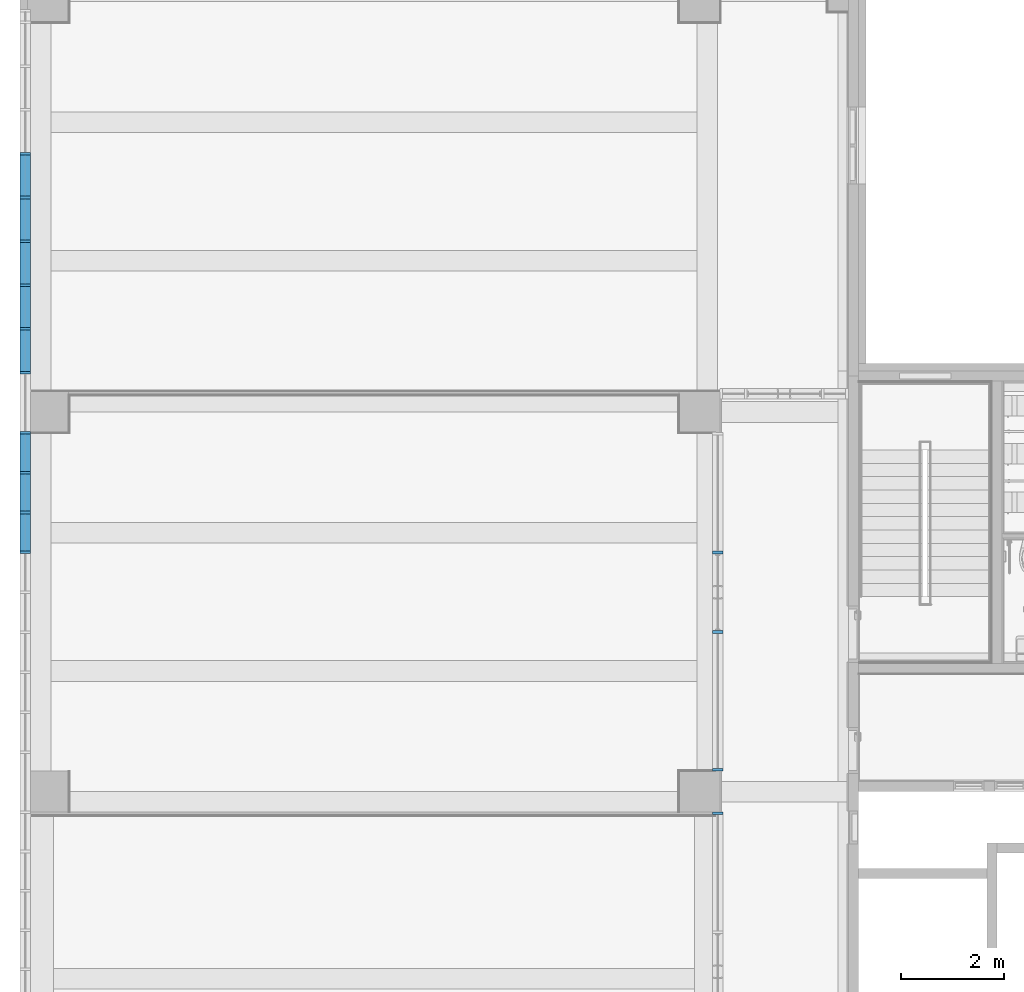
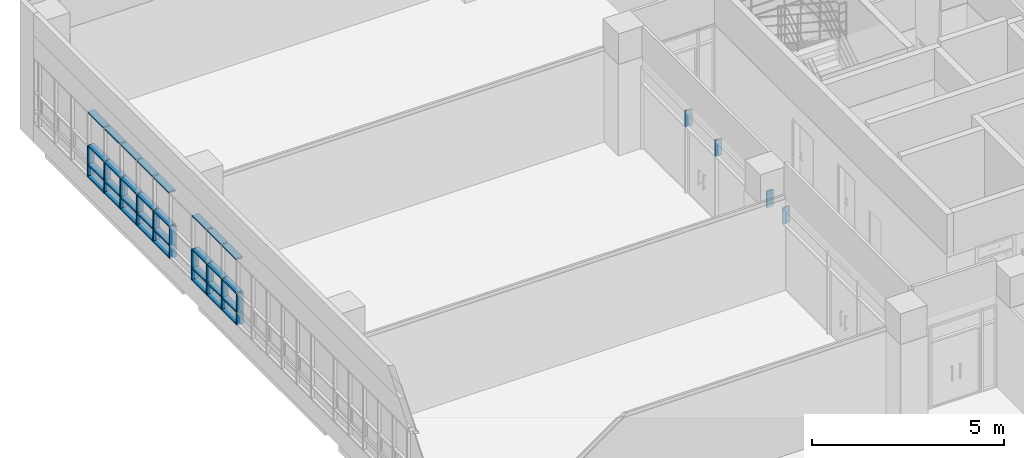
# One storey, part 17 of 81: 56 members, 3 elements without a shape of their own.
"""IFC2X3 building model written with IfcOpenShell, lengths in millimetres."""

import ifcopenshell
import ifcopenshell.guid

model = None  # the IFC model being written
_history = None  # IfcOwnerHistory: only IFC2X3 demands one
_inside = {}  # id of a spatial element -> (the spatial element, [elements in it])
_under = {}  # id of a project, library or spatial element -> (it, [spatial elements below it])
_declared = {}  # id of a project -> (the project, [libraries it declares])
_typed = {}  # id of a type object -> (the type object, [elements of that type])
_made_of = {}  # id of a material, layer set ... -> (it, [elements and type objects made of it])


def new_model(schema):
    """Start an empty IFC model of exactly this schema.

    Asked for "IFC4X3", IfcOpenShell would pick the latest addendum, in which some entities
    have other attributes; the version numbers below select the first issue.
    IFC2X3 requires an IfcOwnerHistory on every rooted entity: one is made here for all.
    """
    global model, _history
    if schema == "IFC4X3":
        model = ifcopenshell.file(schema_version=(4, 3, 0, 0))
    else:
        model = ifcopenshell.file(schema=schema)
    _inside.clear()
    _under.clear()
    _declared.clear()
    _typed.clear()
    _made_of.clear()
    _history = None
    if model.schema == "IFC2X3":
        org = make("IfcOrganization", Name="unknown")
        user = make(
            "IfcPersonAndOrganization",
            ThePerson=make("IfcPerson", FamilyName="unknown"),
            TheOrganization=org,
        )
        app = make(
            "IfcApplication",
            ApplicationDeveloper=org,
            Version="unknown",
            ApplicationFullName="unknown",
            ApplicationIdentifier="unknown",
        )
        _history = make(
            "IfcOwnerHistory",
            OwningUser=user,
            OwningApplication=app,
            ChangeAction="ADDED",
            CreationDate=0,
        )
    return model


def make(cls, **values):
    """One entity of the class cls with the attributes given. An attribute that is None is left unset."""
    return model.create_entity(
        cls, **{name: value for name, value in values.items() if value is not None}
    )


def entity(cls, *values):
    """Any entity or typed value of the class cls, its attributes in the order of the schema. None: left unset."""
    e = model.create_entity(cls)
    for i, value in enumerate(values):
        if value is not None:
            e[i] = value
    return e


def rooted(cls, **values):
    """An entity with a GlobalId (a new one), such as an element, a storey or a relation."""
    return make(cls, GlobalId=ifcopenshell.guid.new(), OwnerHistory=_history, **values)


def si_unit(unit_type, name, prefix=None):
    """IfcSIUnit, for example si_unit("LENGTHUNIT", "METRE", prefix="MILLI")."""
    return make("IfcSIUnit", UnitType=unit_type, Prefix=prefix, Name=name)


def converted_unit(unit_type, name, factor, base, dimensions=None, offset=None):
    """IfcConversionBasedUnit, such as the inch: factor (a typed value) times the base unit."""
    return make(
        "IfcConversionBasedUnit"
        if offset is None
        else "IfcConversionBasedUnitWithOffset",
        ConversionOffset=offset,
        Dimensions=None
        if dimensions is None
        else entity("IfcDimensionalExponents", *dimensions),
        UnitType=unit_type,
        Name=name,
        ConversionFactor=make(
            "IfcMeasureWithUnit", ValueComponent=factor, UnitComponent=base
        ),
    )


def derived_unit(unit_type, elements):
    """IfcDerivedUnit: a product of units, each with its exponent."""
    return make(
        "IfcDerivedUnit",
        Elements=[
            make("IfcDerivedUnitElement", Unit=unit, Exponent=power)
            for unit, power in elements
        ],
        UnitType=unit_type,
    )


def assignment(units):
    """IfcUnitAssignment: the units of a project."""
    return None if units is None else make("IfcUnitAssignment", Units=units)


def point(xyz):
    """IfcCartesianPoint."""
    return None if xyz is None else make("IfcCartesianPoint", Coordinates=xyz)


def direction(xyz):
    """IfcDirection."""
    return None if xyz is None else make("IfcDirection", DirectionRatios=xyz)


def frame(location, z_axis=None, x_axis=None):
    """IfcAxis2Placement3D, a coordinate frame: its origin and axes. An axis left out is left unset."""
    return make(
        "IfcAxis2Placement3D",
        Location=point(location),
        Axis=direction(z_axis),
        RefDirection=direction(x_axis),
    )


def frame_2d(location, x_axis=None):
    """IfcAxis2Placement2D, a coordinate frame in the plane: its origin and x axis."""
    return make(
        "IfcAxis2Placement2D", Location=point(location), RefDirection=direction(x_axis)
    )


def origin():
    """The frame at (0, 0, 0) with its axes left unset."""
    return frame((0.0, 0.0, 0.0))


def origin_2d_with_axis():
    """The frame at (0, 0) in the plane with the x axis (1, 0) written out."""
    return frame_2d((0.0, 0.0), x_axis=(1.0, 0.0))


def place(relative_to, where):
    """IfcLocalPlacement: puts the frame where relative to a parent placement (None: the world)."""
    return make(
        "IfcLocalPlacement", PlacementRelTo=relative_to, RelativePlacement=where
    )


def context(
    kind, dimensions, precision=None, world=None, true_north=None, identifier=None
):
    """IfcGeometricRepresentationContext, for example the 3D "Model" context."""
    return make(
        "IfcGeometricRepresentationContext",
        ContextIdentifier=identifier,
        ContextType=kind,
        CoordinateSpaceDimension=dimensions,
        Precision=precision,
        WorldCoordinateSystem=world,
        TrueNorth=true_north,
    )


def subcontext(parent, identifier, kind, view, scale=None):
    """IfcGeometricRepresentationSubContext, for example "Body" below "Model"."""
    return make(
        "IfcGeometricRepresentationSubContext",
        ContextIdentifier=identifier,
        ContextType=kind,
        ParentContext=parent,
        TargetScale=scale,
        TargetView=view,
    )


def project(units=None, contexts=None):
    """IfcProject with its units and contexts."""
    return rooted(
        "IfcProject",
        Name="project",
        RepresentationContexts=contexts,
        UnitsInContext=assignment(units),
    )


def spatial(cls, under=None, at=None, **own):
    """A site, building, storey or space (cls), placed at a placement, below another one or the project."""
    s = rooted(cls, ObjectPlacement=at, **own)
    if under is not None:
        _under.setdefault(under.id(), (under, []))[1].append(s)
    return s


def profile(cls, at=None, kind="AREA", **sizes):
    """A parametric profile (cls). Its sizes go by their IFC names, for example OverallWidth=200.0."""
    return make(cls, ProfileType=kind, Position=at, **sizes)


def rectangle(**sizes):
    """IfcRectangleProfileDef."""
    return profile("IfcRectangleProfileDef", **sizes)


def extrude(swept, where, along, depth):
    """IfcExtrudedAreaSolid: the profile swept, set in the frame where, extruded along a direction by depth."""
    return make(
        "IfcExtrudedAreaSolid",
        SweptArea=swept,
        Position=where,
        ExtrudedDirection=direction(along),
        Depth=depth,
    )


def shape(context_of_items, identifier, shape_type, items):
    """IfcShapeRepresentation: the items that make up one representation, for example the "Body"."""
    return make(
        "IfcShapeRepresentation",
        ContextOfItems=context_of_items,
        RepresentationIdentifier=identifier,
        RepresentationType=shape_type,
        Items=items,
    )


def source(mapping_origin, context_of_items, identifier, shape_type, items):
    """IfcRepresentationMap: a shape defined once, which mapped items show again and again."""
    return make(
        "IfcRepresentationMap",
        MappingOrigin=mapping_origin,
        MappedRepresentation=shape(context_of_items, identifier, shape_type, items),
    )


def transform(
    local_origin,
    x_axis=None,
    y_axis=None,
    z_axis=None,
    scale=None,
    scale2=None,
    scale3=None,
    uniform=True,
):
    """IfcCartesianTransformationOperator3D, or its non-uniform kind. x_axis, y_axis, z_axis: its Axis1, 2, 3."""
    if uniform:
        return make(
            "IfcCartesianTransformationOperator3D",
            Axis1=direction(x_axis),
            Axis2=direction(y_axis),
            LocalOrigin=point(local_origin),
            Scale=scale,
            Axis3=direction(z_axis),
        )
    return make(
        "IfcCartesianTransformationOperator3DnonUniform",
        Axis1=direction(x_axis),
        Axis2=direction(y_axis),
        LocalOrigin=point(local_origin),
        Scale=scale,
        Axis3=direction(z_axis),
        Scale2=scale2,
        Scale3=scale3,
    )


def mapped(mapping_source, mapping_target):
    """IfcMappedItem: shows the shape of a source again, moved by a transform."""
    return make(
        "IfcMappedItem", MappingSource=mapping_source, MappingTarget=mapping_target
    )


def material(Name=None, Category=None):
    """IfcMaterial."""
    return make("IfcMaterial", Name=Name, Category=Category)


def made_of(thing, what):
    """Note that an element or type object is made of a material, layer set ...; save() writes the relation."""
    if what is not None:
        _made_of.setdefault(what.id(), (what, []))[1].append(thing)
    return thing


def type_object(cls, material=None, **own):
    """A type object (cls), such as IfcWallType, which elements share."""
    return made_of(rooted(cls, **own), material)


def type_shapes(of_type, sources):
    """Give a type object the sources (RepresentationMaps) that its elements show as mapped items."""
    of_type.RepresentationMaps = sources


def element(
    cls,
    number,
    at=None,
    inside=None,
    cuts=None,
    type_object=None,
    material=None,
    context=None,
    identifier="Body",
    shape_type=None,
    held_by="IfcProductDefinitionShape",
    body=None,
    shapes=None,
    **own,
):
    """One element of the class cls, such as IfcWall. Its Tag is "e" and its number.

    at: its placement. inside: the storey or other place that contains it. cuts: it is an
    opening in that element (IfcRelVoidsElement). A single representation is given by context,
    identifier, shape_type and body (its items); several are given by shapes. held_by: the class
    of the entity that holds the representations. save() writes the other relations.
    """
    e = rooted(cls, Tag="e%d" % number, ObjectPlacement=at, **own)
    if body is not None:
        shapes = [shape(context, identifier, shape_type, body)]
    if shapes is not None:
        e.Representation = make(held_by, Representations=shapes)
    if inside is not None:
        _inside.setdefault(inside.id(), (inside, []))[1].append(e)
    if cuts is not None:
        rooted(
            "IfcRelVoidsElement", RelatingBuildingElement=cuts, RelatedOpeningElement=e
        )
    if type_object is not None:
        _typed.setdefault(type_object.id(), (type_object, []))[1].append(e)
    return made_of(e, material)


def aggregate(whole, parts):
    """IfcRelAggregates: a whole, such as a stair, and the parts it consists of."""
    return rooted("IfcRelAggregates", RelatingObject=whole, RelatedObjects=parts)


def save(model, path):
    """Write the relations noted so far, then the file.

    IfcRelAggregates (storeys below a building ...), IfcRelContainedInSpatialStructure (elements
    in a storey), IfcRelDefinesByType, IfcRelAssociatesMaterial and IfcRelDeclares: one each for
    every whole, place, type object, material and project.
    """
    for whole, parts in _under.values():
        aggregate(whole, parts)
    for where, things in _inside.values():
        rooted(
            "IfcRelContainedInSpatialStructure",
            RelatedElements=things,
            RelatingStructure=where,
        )
    for kind, things in _typed.values():
        rooted("IfcRelDefinesByType", RelatedObjects=things, RelatingType=kind)
    for what, things in _made_of.values():
        rooted("IfcRelAssociatesMaterial", RelatedObjects=things, RelatingMaterial=what)
    for by, libraries in _declared.values():
        rooted("IfcRelDeclares", RelatingContext=by, RelatedDefinitions=libraries)
    model.write(path)


model = new_model("IFC2X3")

# Units and contexts
model_context = context("Model", 3, precision=0.01, world=origin(), true_north=direction((6.123031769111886e-17, 1.0)))
body_context = subcontext(model_context, "Body", "Model", "MODEL_VIEW")
ifc_project = project(units=[si_unit("LENGTHUNIT", "METRE", prefix="MILLI"), si_unit("AREAUNIT", "SQUARE_METRE"), si_unit("VOLUMEUNIT", "CUBIC_METRE"), converted_unit("PLANEANGLEUNIT", "DEGREE", entity("IfcRatioMeasure", 0.017453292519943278), si_unit("PLANEANGLEUNIT", "RADIAN"), dimensions=[0, 0, 0, 0, 0, 0, 0]), si_unit("MASSUNIT", "GRAM", prefix="KILO"), derived_unit("MASSDENSITYUNIT", [(si_unit("MASSUNIT", "GRAM", prefix="KILO"), 1), (si_unit("LENGTHUNIT", "METRE"), -3)]), derived_unit("MOMENTOFINERTIAUNIT", [(si_unit("LENGTHUNIT", "METRE"), 4)]), si_unit("TIMEUNIT", "SECOND"), si_unit("FREQUENCYUNIT", "HERTZ"), si_unit("THERMODYNAMICTEMPERATUREUNIT", "DEGREE_CELSIUS"), derived_unit("THERMALTRANSMITTANCEUNIT", [(si_unit("MASSUNIT", "GRAM", prefix="KILO"), 1), (si_unit("THERMODYNAMICTEMPERATUREUNIT", "KELVIN"), -1), (si_unit("TIMEUNIT", "SECOND"), -3)]), derived_unit("VOLUMETRICFLOWRATEUNIT", [(si_unit("LENGTHUNIT", "METRE"), 3), (si_unit("TIMEUNIT", "SECOND"), -1)]), derived_unit("MASSFLOWRATEUNIT", [(si_unit("MASSUNIT", "GRAM", prefix="KILO"), 1), (si_unit("TIMEUNIT", "SECOND"), -1)]), derived_unit("ROTATIONALFREQUENCYUNIT", [(si_unit("TIMEUNIT", "SECOND"), -1)]), si_unit("ELECTRICCURRENTUNIT", "AMPERE"), si_unit("ELECTRICVOLTAGEUNIT", "VOLT"), si_unit("POWERUNIT", "WATT"), si_unit("FORCEUNIT", "NEWTON", prefix="KILO"), si_unit("ILLUMINANCEUNIT", "LUX"), si_unit("LUMINOUSFLUXUNIT", "LUMEN"), si_unit("LUMINOUSINTENSITYUNIT", "CANDELA"), derived_unit("USERDEFINED", [(si_unit("MASSUNIT", "GRAM", prefix="KILO"), -1), (si_unit("LENGTHUNIT", "METRE"), -2), (si_unit("TIMEUNIT", "SECOND"), 3), (si_unit("LUMINOUSFLUXUNIT", "LUMEN"), 1)]), derived_unit("SOUNDPOWERUNIT", [(si_unit("MASSUNIT", "GRAM", prefix="KILO"), 1), (si_unit("LENGTHUNIT", "METRE"), 2), (si_unit("TIMEUNIT", "SECOND"), -3)]), derived_unit("SOUNDPRESSUREUNIT", [(si_unit("MASSUNIT", "GRAM", prefix="KILO"), 1), (si_unit("LENGTHUNIT", "METRE"), -1), (si_unit("TIMEUNIT", "SECOND"), -2)]), derived_unit("LINEARVELOCITYUNIT", [(si_unit("LENGTHUNIT", "METRE"), 1), (si_unit("TIMEUNIT", "SECOND"), -1)]), si_unit("PRESSUREUNIT", "PASCAL"), derived_unit("USERDEFINED", [(si_unit("LENGTHUNIT", "METRE"), -2), (si_unit("MASSUNIT", "GRAM", prefix="KILO"), 1), (si_unit("TIMEUNIT", "SECOND"), -2)]), derived_unit("LINEARFORCEUNIT", [(si_unit("MASSUNIT", "GRAM", prefix="KILO"), 1), (si_unit("LENGTHUNIT", "METRE"), 1), (si_unit("TIMEUNIT", "SECOND"), -2), (si_unit("LENGTHUNIT", "METRE"), -1)]), derived_unit("PLANARFORCEUNIT", [(si_unit("MASSUNIT", "GRAM", prefix="KILO"), 1), (si_unit("LENGTHUNIT", "METRE"), 1), (si_unit("TIMEUNIT", "SECOND"), -2), (si_unit("LENGTHUNIT", "METRE"), -2)])], contexts=[model_context])

# Site, building, storey
site_placement = place(None, frame((-14167.972527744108, -657.2125860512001, 0.0)))
site = spatial("IfcSite", under=ifc_project, at=site_placement, Name="Default", CompositionType="ELEMENT")
building_placement = place(site_placement, origin())
building = spatial("IfcBuilding", under=site, at=building_placement, Name="Sample Building", CompositionType="ELEMENT")
storey_placement = place(building_placement, frame((0.0, 0.0, 13400.0)))
storey = spatial("IfcBuildingStorey", under=building, at=storey_placement, Name="지상 4층", CompositionType="ELEMENT", Elevation=13400.00000000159)

# Curtain wall, members
curtain_wall_type = type_object("IfcCurtainWallType", Name="커튼월:CW112-스테인리스 스틸 커튼월", PredefinedType="NOTDEFINED")
curtain_wall_1_placement = place(storey_placement, frame((0.0, 0.0, -13400.0)))
curtain_wall_1 = element("IfcCurtainWall", 1, at=curtain_wall_1_placement, inside=storey, type_object=curtain_wall_type, Name="커튼월:CW112-스테인리스 스틸 커튼월", ObjectType="커튼월:CW112-스테인리스 스틸 커튼월")
ifc_material = material(Name="<Unnamed>")
member_type_1 = type_object("IfcMemberType", Name="직사각형 멀리언:CW200-직사각형 멀리언 50x200mm", PredefinedType="MULLION", material=ifc_material)
shared_shape_1 = source(origin(), body_context, "Body", "SweptSolid", [
    extrude(rectangle(XDim=200.0, YDim=50.0, at=origin_2d_with_axis()), frame((0.0, 0.0, -600.0), z_axis=(0.0, 0.0, 1.0), x_axis=(0.0, -1.0, 0.0)), (0.0, 0.0, 1.0), 600.0),
])
type_shapes(member_type_1, [shared_shape_1])
member_1_placement = place(curtain_wall_1_placement, frame((14018.570555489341, 32393.317707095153, 14400.0), z_axis=(0.0, 0.0, -1.0), x_axis=(0.0, -1.0, 0.0)))
member_1 = element("IfcMember", 2, at=member_1_placement, type_object=member_type_1, material=ifc_material, Name="직사각형 멀리언:CW200-직사각형 멀리언 50x200mm", ObjectType="직사각형 멀리언:CW200-직사각형 멀리언 50x200mm", context=body_context, shape_type="MappedRepresentation", body=[
    mapped(shared_shape_1, transform((0.0, 0.0, 0.0), scale=1.0)),
])
member_2_placement = place(curtain_wall_1_placement, frame((14018.570555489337, 31539.817707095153, 14400.0), z_axis=(0.0, 0.0, -1.0), x_axis=(0.0, -1.0, 0.0)))
member_2 = element("IfcMember", 3, at=member_2_placement, type_object=member_type_1, material=ifc_material, Name="직사각형 멀리언:CW200-직사각형 멀리언 50x200mm", ObjectType="직사각형 멀리언:CW200-직사각형 멀리언 50x200mm", context=body_context, shape_type="MappedRepresentation", body=[
    mapped(shared_shape_1, transform((0.0, 0.0, 0.0), scale=1.0)),
])
member_3_placement = place(curtain_wall_1_placement, frame((14018.570555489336, 30686.317707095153, 14400.0), z_axis=(0.0, 0.0, -1.0), x_axis=(0.0, -1.0, 0.0)))
member_3 = element("IfcMember", 4, at=member_3_placement, type_object=member_type_1, material=ifc_material, Name="직사각형 멀리언:CW200-직사각형 멀리언 50x200mm", ObjectType="직사각형 멀리언:CW200-직사각형 멀리언 50x200mm", context=body_context, shape_type="MappedRepresentation", body=[
    mapped(shared_shape_1, transform((0.0, 0.0, 0.0), scale=1.0)),
])
member_4_placement = place(curtain_wall_1_placement, frame((14018.570555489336, 29832.81770709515, 14400.0), z_axis=(0.0, 0.0, -1.0), x_axis=(0.0, -1.0, 0.0)))
member_4 = element("IfcMember", 5, at=member_4_placement, type_object=member_type_1, material=ifc_material, Name="직사각형 멀리언:CW200-직사각형 멀리언 50x200mm", ObjectType="직사각형 멀리언:CW200-직사각형 멀리언 50x200mm", context=body_context, shape_type="MappedRepresentation", body=[
    mapped(shared_shape_1, transform((0.0, 0.0, 0.0), scale=1.0)),
])
member_5_placement = place(curtain_wall_1_placement, frame((14018.570555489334, 28979.31770709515, 14400.0), z_axis=(0.0, 0.0, -1.0), x_axis=(0.0, -1.0, 0.0)))
member_5 = element("IfcMember", 6, at=member_5_placement, type_object=member_type_1, material=ifc_material, Name="직사각형 멀리언:CW200-직사각형 멀리언 50x200mm", ObjectType="직사각형 멀리언:CW200-직사각형 멀리언 50x200mm", context=body_context, shape_type="MappedRepresentation", body=[
    mapped(shared_shape_1, transform((0.0, 0.0, 0.0), scale=1.0)),
])
member_6_placement = place(curtain_wall_1_placement, frame((14018.570555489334, 28125.81770709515, 14400.0), z_axis=(0.0, 0.0, -1.0), x_axis=(0.0, -1.0, 0.0)))
member_6 = element("IfcMember", 7, at=member_6_placement, type_object=member_type_1, material=ifc_material, Name="직사각형 멀리언:CW200-직사각형 멀리언 50x200mm", ObjectType="직사각형 멀리언:CW200-직사각형 멀리언 50x200mm", context=body_context, shape_type="MappedRepresentation", body=[
    mapped(shared_shape_1, transform((0.0, 0.0, 0.0), scale=1.0)),
])
member_7_placement = place(curtain_wall_1_placement, frame((14018.570555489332, 26955.81770709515, 14400.0), z_axis=(0.0, 0.0, -1.0), x_axis=(0.0, -1.0, 0.0)))
member_7 = element("IfcMember", 8, at=member_7_placement, type_object=member_type_1, material=ifc_material, Name="직사각형 멀리언:CW200-직사각형 멀리언 50x200mm", ObjectType="직사각형 멀리언:CW200-직사각형 멀리언 50x200mm", context=body_context, shape_type="MappedRepresentation", body=[
    mapped(shared_shape_1, transform((0.0, 0.0, 0.0), scale=1.0)),
])
member_8_placement = place(curtain_wall_1_placement, frame((14018.57055548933, 26176.81770709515, 14400.0), z_axis=(0.0, 0.0, -1.0), x_axis=(0.0, -1.0, 0.0)))
member_8 = element("IfcMember", 9, at=member_8_placement, type_object=member_type_1, material=ifc_material, Name="직사각형 멀리언:CW200-직사각형 멀리언 50x200mm", ObjectType="직사각형 멀리언:CW200-직사각형 멀리언 50x200mm", context=body_context, shape_type="MappedRepresentation", body=[
    mapped(shared_shape_1, transform((0.0, 0.0, 0.0), scale=1.0)),
])
member_9_placement = place(curtain_wall_1_placement, frame((14018.57055548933, 25397.81770709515, 14400.0), z_axis=(0.0, 0.0, -1.0), x_axis=(0.0, -1.0, 0.0)))
member_9 = element("IfcMember", 10, at=member_9_placement, type_object=member_type_1, material=ifc_material, Name="직사각형 멀리언:CW200-직사각형 멀리언 50x200mm", ObjectType="직사각형 멀리언:CW200-직사각형 멀리언 50x200mm", context=body_context, shape_type="MappedRepresentation", body=[
    mapped(shared_shape_1, transform((0.0, 0.0, 0.0), scale=1.0)),
])
member_10_placement = place(curtain_wall_1_placement, frame((14018.570555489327, 24618.81770709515, 14400.0), z_axis=(0.0, 0.0, -1.0), x_axis=(0.0, -1.0, 0.0)))
member_10 = element("IfcMember", 11, at=member_10_placement, type_object=member_type_1, material=ifc_material, Name="직사각형 멀리언:CW200-직사각형 멀리언 50x200mm", ObjectType="직사각형 멀리언:CW200-직사각형 멀리언 50x200mm", context=body_context, shape_type="MappedRepresentation", body=[
    mapped(shared_shape_1, transform((0.0, 0.0, 0.0), scale=1.0)),
])

# Curtain wall, member
curtain_wall_2_placement = place(storey_placement, frame((0.0, 0.0, -13400.0)))
curtain_wall_2 = element("IfcCurtainWall", 12, at=curtain_wall_2_placement, inside=storey, type_object=curtain_wall_type, Name="커튼월:CW112-스테인리스 스틸 커튼월", ObjectType="커튼월:CW112-스테인리스 스틸 커튼월")
member_type_2 = type_object("IfcMemberType", Name="직사각형 멀리언:CW200-직사각형 멀리언 50x200mm", PredefinedType="MULLION", material=ifc_material)
shared_shape_2 = source(origin(), body_context, "Body", "SweptSolid", [
    extrude(rectangle(XDim=200.0, YDim=50.0, at=origin_2d_with_axis()), frame((-25.0, 0.0, -520.0), z_axis=(0.0, 0.0, 1.0), x_axis=(0.0, -1.0, 0.0)), (0.0, 0.0, 1.0), 520.0000000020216),
])
type_shapes(member_type_2, [shared_shape_2])
member_11_placement = place(curtain_wall_2_placement, frame((27522.95510516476, 19557.212617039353, 16100.0), z_axis=(0.0, 0.0, 1.0), x_axis=(0.0, 1.0, 0.0)))
member_11 = element("IfcMember", 13, at=member_11_placement, type_object=member_type_2, material=ifc_material, Name="직사각형 멀리언:CW200-직사각형 멀리언 50x200mm", ObjectType="직사각형 멀리언:CW200-직사각형 멀리언 50x200mm", context=body_context, shape_type="MappedRepresentation", body=[
    mapped(shared_shape_2, transform((0.0, 0.0, 0.0), scale=1.0)),
])
aggregate(curtain_wall_2, [member_11])

# Curtain wall, members
curtain_wall_3_placement = place(storey_placement, frame((0.0, 0.0, -13400.0)))
curtain_wall_3 = element("IfcCurtainWall", 14, at=curtain_wall_3_placement, inside=storey, type_object=curtain_wall_type, Name="커튼월:CW112-스테인리스 스틸 커튼월", ObjectType="커튼월:CW112-스테인리스 스틸 커튼월")
member_type_3 = type_object("IfcMemberType", Name="직사각형 멀리언:CW200-직사각형 멀리언 50x200mm", PredefinedType="MULLION", material=ifc_material)
shared_shape_3 = source(origin(), body_context, "Body", "SweptSolid", [
    extrude(rectangle(XDim=200.0, YDim=50.0, at=origin_2d_with_axis()), frame((-25.0, 0.0, -520.0), z_axis=(0.0, 0.0, 1.0), x_axis=(0.0, -1.0, 0.0)), (0.0, 0.0, 1.0), 520.0000000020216),
])
type_shapes(member_type_3, [shared_shape_3])
member_12_placement = place(curtain_wall_3_placement, frame((27523.08697283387, 20357.212307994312, 15580.0), z_axis=(0.0, 0.0, -1.0), x_axis=(0.0, -1.0, 0.0)))
member_12 = element("IfcMember", 15, at=member_12_placement, type_object=member_type_3, material=ifc_material, Name="직사각형 멀리언:CW200-직사각형 멀리언 50x200mm", ObjectType="직사각형 멀리언:CW200-직사각형 멀리언 50x200mm", context=body_context, shape_type="MappedRepresentation", body=[
    mapped(shared_shape_3, transform((0.0, 0.0, 0.0), scale=1.0)),
])
member_type_4 = type_object("IfcMemberType", Name="직사각형 멀리언:CW200-직사각형 멀리언 50x200mm", PredefinedType="MULLION", material=ifc_material)
shared_shape_4 = source(origin(), body_context, "Body", "SweptSolid", [
    extrude(rectangle(XDim=200.0, YDim=50.0, at=origin_2d_with_axis()), frame((0.0, 0.0, -520.0), z_axis=(0.0, 0.0, 1.0), x_axis=(0.0, -1.0, 0.0)), (0.0, 0.0, 1.0), 520.0000000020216),
])
type_shapes(member_type_4, [shared_shape_4])
member_13_placement = place(curtain_wall_3_placement, frame((27523.086972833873, 24617.21230799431, 15580.0), z_axis=(0.0, 0.0, -1.0), x_axis=(0.0, -1.0, 0.0)))
member_13 = element("IfcMember", 16, at=member_13_placement, type_object=member_type_4, material=ifc_material, Name="직사각형 멀리언:CW200-직사각형 멀리언 50x200mm", ObjectType="직사각형 멀리언:CW200-직사각형 멀리언 50x200mm", context=body_context, shape_type="MappedRepresentation", body=[
    mapped(shared_shape_4, transform((0.0, 0.0, 0.0), scale=1.0)),
])
member_14_placement = place(curtain_wall_3_placement, frame((27523.086972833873, 23067.212307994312, 15580.0), z_axis=(0.0, 0.0, -1.0), x_axis=(0.0, -1.0, 0.0)))
member_14 = element("IfcMember", 17, at=member_14_placement, type_object=member_type_4, material=ifc_material, Name="직사각형 멀리언:CW200-직사각형 멀리언 50x200mm", ObjectType="직사각형 멀리언:CW200-직사각형 멀리언 50x200mm", context=body_context, shape_type="MappedRepresentation", body=[
    mapped(shared_shape_4, transform((0.0, 0.0, 0.0), scale=1.0)),
])
aggregate(curtain_wall_3, [member_12, member_13, member_14])

# Member
member_type_5 = type_object("IfcMemberType", Name="직사각형 멀리언:CW200-직사각형 멀리언 50x200mm", PredefinedType="MULLION", material=ifc_material)
shared_shape_5 = source(origin(), body_context, "Body", "SweptSolid", [
    extrude(rectangle(XDim=200.0, YDim=50.0, at=origin_2d_with_axis()), frame((-25.0, 0.0, -729.0), z_axis=(0.0, 0.0, 1.0), x_axis=(0.0, -1.0, 0.0)), (0.0, 0.0, 1.0), 729.000000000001),
])
type_shapes(member_type_5, [shared_shape_5])
member_15_placement = place(curtain_wall_1_placement, frame((14018.570555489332, 26930.817707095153, 14000.0), z_axis=(0.0, 1.0, 0.0), x_axis=(0.0, 0.0, -1.0)))
member_15 = element("IfcMember", 18, at=member_15_placement, type_object=member_type_5, material=ifc_material, Name="직사각형 멀리언:CW200-직사각형 멀리언 50x200mm", ObjectType="직사각형 멀리언:CW200-직사각형 멀리언 50x200mm", context=body_context, shape_type="MappedRepresentation", body=[
    mapped(shared_shape_5, transform((0.0, 0.0, 0.0), scale=1.0)),
])

member_16_placement = place(curtain_wall_1_placement, frame((14018.57055548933, 26151.817707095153, 14000.0), z_axis=(0.0, 1.0, 0.0), x_axis=(0.0, 0.0, -1.0)))
member_16 = element("IfcMember", 19, at=member_16_placement, type_object=member_type_5, material=ifc_material, Name="직사각형 멀리언:CW200-직사각형 멀리언 50x200mm", ObjectType="직사각형 멀리언:CW200-직사각형 멀리언 50x200mm", context=body_context, shape_type="MappedRepresentation", body=[
    mapped(shared_shape_5, transform((0.0, 0.0, 0.0), scale=1.0)),
])

member_17_placement = place(curtain_wall_1_placement, frame((14018.57055548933, 25372.817707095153, 14000.0), z_axis=(0.0, 1.0, 0.0), x_axis=(0.0, 0.0, -1.0)))
member_17 = element("IfcMember", 20, at=member_17_placement, type_object=member_type_5, material=ifc_material, Name="직사각형 멀리언:CW200-직사각형 멀리언 50x200mm", ObjectType="직사각형 멀리언:CW200-직사각형 멀리언 50x200mm", context=body_context, shape_type="MappedRepresentation", body=[
    mapped(shared_shape_5, transform((0.0, 0.0, 0.0), scale=1.0)),
])

member_type_6 = type_object("IfcMemberType", Name="직사각형 멀리언:CW200-직사각형 멀리언 50x200mm", PredefinedType="MULLION", material=ifc_material)
shared_shape_6 = source(origin(), body_context, "Body", "SweptSolid", [
    extrude(rectangle(XDim=200.0, YDim=50.0, at=origin_2d_with_axis()), frame((0.0, 0.0, -729.0), z_axis=(0.0, 0.0, 1.0), x_axis=(0.0, -1.0, 0.0)), (0.0, 0.0, 1.0), 728.9999999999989),
])
type_shapes(member_type_6, [shared_shape_6])
member_18_placement = place(curtain_wall_1_placement, frame((14018.57055548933, 26201.81770709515, 14400.0), z_axis=(0.0, -1.0, 0.0), x_axis=(0.0, 0.0, 1.0)))
member_18 = element("IfcMember", 21, at=member_18_placement, type_object=member_type_6, material=ifc_material, Name="직사각형 멀리언:CW200-직사각형 멀리언 50x200mm", ObjectType="직사각형 멀리언:CW200-직사각형 멀리언 50x200mm", context=body_context, shape_type="MappedRepresentation", body=[
    mapped(shared_shape_6, transform((0.0, 0.0, 0.0), scale=1.0)),
])

member_19_placement = place(curtain_wall_1_placement, frame((14018.57055548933, 26201.81770709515, 15000.0), z_axis=(0.0, -1.0, 0.0), x_axis=(0.0, 0.0, 1.0)))
member_19 = element("IfcMember", 22, at=member_19_placement, type_object=member_type_6, material=ifc_material, Name="직사각형 멀리언:CW200-직사각형 멀리언 50x200mm", ObjectType="직사각형 멀리언:CW200-직사각형 멀리언 50x200mm", context=body_context, shape_type="MappedRepresentation", body=[
    mapped(shared_shape_6, transform((0.0, 0.0, 0.0), scale=1.0)),
])

member_20_placement = place(curtain_wall_1_placement, frame((14018.57055548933, 25422.81770709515, 14400.0), z_axis=(0.0, -1.0, 0.0), x_axis=(0.0, 0.0, 1.0)))
member_20 = element("IfcMember", 23, at=member_20_placement, type_object=member_type_6, material=ifc_material, Name="직사각형 멀리언:CW200-직사각형 멀리언 50x200mm", ObjectType="직사각형 멀리언:CW200-직사각형 멀리언 50x200mm", context=body_context, shape_type="MappedRepresentation", body=[
    mapped(shared_shape_6, transform((0.0, 0.0, 0.0), scale=1.0)),
])

member_21_placement = place(curtain_wall_1_placement, frame((14018.57055548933, 25422.81770709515, 15000.0), z_axis=(0.0, -1.0, 0.0), x_axis=(0.0, 0.0, 1.0)))
member_21 = element("IfcMember", 24, at=member_21_placement, type_object=member_type_6, material=ifc_material, Name="직사각형 멀리언:CW200-직사각형 멀리언 50x200mm", ObjectType="직사각형 멀리언:CW200-직사각형 멀리언 50x200mm", context=body_context, shape_type="MappedRepresentation", body=[
    mapped(shared_shape_6, transform((0.0, 0.0, 0.0), scale=1.0)),
])

member_22_placement = place(curtain_wall_1_placement, frame((14018.570555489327, 24643.81770709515, 14400.0), z_axis=(0.0, -1.0, 0.0), x_axis=(0.0, 0.0, 1.0)))
member_22 = element("IfcMember", 25, at=member_22_placement, type_object=member_type_6, material=ifc_material, Name="직사각형 멀리언:CW200-직사각형 멀리언 50x200mm", ObjectType="직사각형 멀리언:CW200-직사각형 멀리언 50x200mm", context=body_context, shape_type="MappedRepresentation", body=[
    mapped(shared_shape_6, transform((0.0, 0.0, 0.0), scale=1.0)),
])

member_23_placement = place(curtain_wall_1_placement, frame((14018.570555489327, 24643.81770709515, 15000.0), z_axis=(0.0, -1.0, 0.0), x_axis=(0.0, 0.0, 1.0)))
member_23 = element("IfcMember", 26, at=member_23_placement, type_object=member_type_6, material=ifc_material, Name="직사각형 멀리언:CW200-직사각형 멀리언 50x200mm", ObjectType="직사각형 멀리언:CW200-직사각형 멀리언 50x200mm", context=body_context, shape_type="MappedRepresentation", body=[
    mapped(shared_shape_6, transform((0.0, 0.0, 0.0), scale=1.0)),
])

member_type_7 = type_object("IfcMemberType", Name="직사각형 멀리언:CW200-직사각형 멀리언 50x200mm", PredefinedType="MULLION", material=ifc_material)
shared_shape_7 = source(origin(), body_context, "Body", "SweptSolid", [
    extrude(rectangle(XDim=200.0, YDim=50.0, at=origin_2d_with_axis()), frame((-25.0, 0.0, -729.0), z_axis=(0.0, 0.0, 1.0), x_axis=(0.0, -1.0, 0.0)), (0.0, 0.0, 1.0), 728.9999999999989),
])
type_shapes(member_type_7, [shared_shape_7])
member_24_placement = place(curtain_wall_1_placement, frame((14018.57055548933, 26201.81770709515, 16100.0), z_axis=(0.0, -1.0, 0.0), x_axis=(0.0, 0.0, 1.0)))
member_24 = element("IfcMember", 27, at=member_24_placement, type_object=member_type_7, material=ifc_material, Name="직사각형 멀리언:CW200-직사각형 멀리언 50x200mm", ObjectType="직사각형 멀리언:CW200-직사각형 멀리언 50x200mm", context=body_context, shape_type="MappedRepresentation", body=[
    mapped(shared_shape_7, transform((0.0, 0.0, 0.0), scale=1.0)),
])

member_25_placement = place(curtain_wall_1_placement, frame((14018.57055548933, 25422.81770709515, 16100.0), z_axis=(0.0, -1.0, 0.0), x_axis=(0.0, 0.0, 1.0)))
member_25 = element("IfcMember", 28, at=member_25_placement, type_object=member_type_7, material=ifc_material, Name="직사각형 멀리언:CW200-직사각형 멀리언 50x200mm", ObjectType="직사각형 멀리언:CW200-직사각형 멀리언 50x200mm", context=body_context, shape_type="MappedRepresentation", body=[
    mapped(shared_shape_7, transform((0.0, 0.0, 0.0), scale=1.0)),
])

member_26_placement = place(curtain_wall_1_placement, frame((14018.570555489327, 24643.817707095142, 16100.0), z_axis=(0.0, -1.0, 0.0), x_axis=(0.0, 0.0, 1.0)))
member_26 = element("IfcMember", 29, at=member_26_placement, type_object=member_type_7, material=ifc_material, Name="직사각형 멀리언:CW200-직사각형 멀리언 50x200mm", ObjectType="직사각형 멀리언:CW200-직사각형 멀리언 50x200mm", context=body_context, shape_type="MappedRepresentation", body=[
    mapped(shared_shape_7, transform((0.0, 0.0, 0.0), scale=1.0)),
])

member_type_8 = type_object("IfcMemberType", Name="직사각형 멀리언:CW200-직사각형 멀리언 50x200mm", PredefinedType="MULLION", material=ifc_material)
shared_shape_8 = source(origin(), body_context, "Body", "SweptSolid", [
    extrude(rectangle(XDim=200.0, YDim=50.0, at=origin_2d_with_axis()), frame((-25.0, 0.0, -803.5000000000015), z_axis=(0.0, 0.0, 1.0), x_axis=(0.0, -1.0, 0.0)), (0.0, 0.0, 1.0), 803.4999999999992),
])
type_shapes(member_type_8, [shared_shape_8])
member_27_placement = place(curtain_wall_1_placement, frame((14018.570555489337, 31514.817707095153, 14000.0), z_axis=(0.0, 1.0, 0.0), x_axis=(0.0, 0.0, -1.0)))
member_27 = element("IfcMember", 30, at=member_27_placement, type_object=member_type_8, material=ifc_material, Name="직사각형 멀리언:CW200-직사각형 멀리언 50x200mm", ObjectType="직사각형 멀리언:CW200-직사각형 멀리언 50x200mm", context=body_context, shape_type="MappedRepresentation", body=[
    mapped(shared_shape_8, transform((0.0, 0.0, 0.0), scale=1.0)),
])

member_28_placement = place(curtain_wall_1_placement, frame((14018.570555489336, 30661.317707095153, 14000.0), z_axis=(0.0, 1.0, 0.0), x_axis=(0.0, 0.0, -1.0)))
member_28 = element("IfcMember", 31, at=member_28_placement, type_object=member_type_8, material=ifc_material, Name="직사각형 멀리언:CW200-직사각형 멀리언 50x200mm", ObjectType="직사각형 멀리언:CW200-직사각형 멀리언 50x200mm", context=body_context, shape_type="MappedRepresentation", body=[
    mapped(shared_shape_8, transform((0.0, 0.0, 0.0), scale=1.0)),
])

member_29_placement = place(curtain_wall_1_placement, frame((14018.570555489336, 29807.817707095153, 14000.0), z_axis=(0.0, 1.0, 0.0), x_axis=(0.0, 0.0, -1.0)))
member_29 = element("IfcMember", 32, at=member_29_placement, type_object=member_type_8, material=ifc_material, Name="직사각형 멀리언:CW200-직사각형 멀리언 50x200mm", ObjectType="직사각형 멀리언:CW200-직사각형 멀리언 50x200mm", context=body_context, shape_type="MappedRepresentation", body=[
    mapped(shared_shape_8, transform((0.0, 0.0, 0.0), scale=1.0)),
])

member_30_placement = place(curtain_wall_1_placement, frame((14018.570555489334, 28954.317707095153, 14000.0), z_axis=(0.0, 1.0, 0.0), x_axis=(0.0, 0.0, -1.0)))
member_30 = element("IfcMember", 33, at=member_30_placement, type_object=member_type_8, material=ifc_material, Name="직사각형 멀리언:CW200-직사각형 멀리언 50x200mm", ObjectType="직사각형 멀리언:CW200-직사각형 멀리언 50x200mm", context=body_context, shape_type="MappedRepresentation", body=[
    mapped(shared_shape_8, transform((0.0, 0.0, 0.0), scale=1.0)),
])

member_31_placement = place(curtain_wall_1_placement, frame((14018.570555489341, 32368.317707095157, 14000.0), z_axis=(0.0, 1.0, 0.0), x_axis=(0.0, 0.0, -1.0)))
member_31 = element("IfcMember", 34, at=member_31_placement, type_object=member_type_8, material=ifc_material, Name="직사각형 멀리언:CW200-직사각형 멀리언 50x200mm", ObjectType="직사각형 멀리언:CW200-직사각형 멀리언 50x200mm", context=body_context, shape_type="MappedRepresentation", body=[
    mapped(shared_shape_8, transform((0.0, 0.0, 0.0), scale=1.0)),
])

member_type_9 = type_object("IfcMemberType", Name="직사각형 멀리언:CW200-직사각형 멀리언 50x200mm", PredefinedType="MULLION", material=ifc_material)
shared_shape_9 = source(origin(), body_context, "Body", "SweptSolid", [
    extrude(rectangle(XDim=200.0, YDim=50.0, at=origin_2d_with_axis()), frame((0.0, 0.0, -803.5000000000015), z_axis=(0.0, 0.0, 1.0), x_axis=(0.0, -1.0, 0.0)), (0.0, 0.0, 1.0), 803.4999999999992),
])
type_shapes(member_type_9, [shared_shape_9])
member_32_placement = place(curtain_wall_1_placement, frame((14018.570555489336, 30711.31770709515, 14400.0), z_axis=(0.0, -1.0, 0.0), x_axis=(0.0, 0.0, 1.0)))
member_32 = element("IfcMember", 35, at=member_32_placement, type_object=member_type_9, material=ifc_material, Name="직사각형 멀리언:CW200-직사각형 멀리언 50x200mm", ObjectType="직사각형 멀리언:CW200-직사각형 멀리언 50x200mm", context=body_context, shape_type="MappedRepresentation", body=[
    mapped(shared_shape_9, transform((0.0, 0.0, 0.0), scale=1.0)),
])

member_33_placement = place(curtain_wall_1_placement, frame((14018.570555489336, 30711.31770709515, 15000.0), z_axis=(0.0, -1.0, 0.0), x_axis=(0.0, 0.0, 1.0)))
member_33 = element("IfcMember", 36, at=member_33_placement, type_object=member_type_9, material=ifc_material, Name="직사각형 멀리언:CW200-직사각형 멀리언 50x200mm", ObjectType="직사각형 멀리언:CW200-직사각형 멀리언 50x200mm", context=body_context, shape_type="MappedRepresentation", body=[
    mapped(shared_shape_9, transform((0.0, 0.0, 0.0), scale=1.0)),
])

member_34_placement = place(curtain_wall_1_placement, frame((14018.570555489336, 29857.81770709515, 14400.0), z_axis=(0.0, -1.0, 0.0), x_axis=(0.0, 0.0, 1.0)))
member_34 = element("IfcMember", 37, at=member_34_placement, type_object=member_type_9, material=ifc_material, Name="직사각형 멀리언:CW200-직사각형 멀리언 50x200mm", ObjectType="직사각형 멀리언:CW200-직사각형 멀리언 50x200mm", context=body_context, shape_type="MappedRepresentation", body=[
    mapped(shared_shape_9, transform((0.0, 0.0, 0.0), scale=1.0)),
])

member_35_placement = place(curtain_wall_1_placement, frame((14018.570555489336, 29857.81770709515, 15000.0), z_axis=(0.0, -1.0, 0.0), x_axis=(0.0, 0.0, 1.0)))
member_35 = element("IfcMember", 38, at=member_35_placement, type_object=member_type_9, material=ifc_material, Name="직사각형 멀리언:CW200-직사각형 멀리언 50x200mm", ObjectType="직사각형 멀리언:CW200-직사각형 멀리언 50x200mm", context=body_context, shape_type="MappedRepresentation", body=[
    mapped(shared_shape_9, transform((0.0, 0.0, 0.0), scale=1.0)),
])

member_36_placement = place(curtain_wall_1_placement, frame((14018.570555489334, 29004.31770709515, 14400.0), z_axis=(0.0, -1.0, 0.0), x_axis=(0.0, 0.0, 1.0)))
member_36 = element("IfcMember", 39, at=member_36_placement, type_object=member_type_9, material=ifc_material, Name="직사각형 멀리언:CW200-직사각형 멀리언 50x200mm", ObjectType="직사각형 멀리언:CW200-직사각형 멀리언 50x200mm", context=body_context, shape_type="MappedRepresentation", body=[
    mapped(shared_shape_9, transform((0.0, 0.0, 0.0), scale=1.0)),
])

member_37_placement = place(curtain_wall_1_placement, frame((14018.570555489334, 29004.31770709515, 15000.0), z_axis=(0.0, -1.0, 0.0), x_axis=(0.0, 0.0, 1.0)))
member_37 = element("IfcMember", 40, at=member_37_placement, type_object=member_type_9, material=ifc_material, Name="직사각형 멀리언:CW200-직사각형 멀리언 50x200mm", ObjectType="직사각형 멀리언:CW200-직사각형 멀리언 50x200mm", context=body_context, shape_type="MappedRepresentation", body=[
    mapped(shared_shape_9, transform((0.0, 0.0, 0.0), scale=1.0)),
])

member_38_placement = place(curtain_wall_1_placement, frame((14018.570555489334, 28150.81770709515, 14400.0), z_axis=(0.0, -1.0, 0.0), x_axis=(0.0, 0.0, 1.0)))
member_38 = element("IfcMember", 41, at=member_38_placement, type_object=member_type_9, material=ifc_material, Name="직사각형 멀리언:CW200-직사각형 멀리언 50x200mm", ObjectType="직사각형 멀리언:CW200-직사각형 멀리언 50x200mm", context=body_context, shape_type="MappedRepresentation", body=[
    mapped(shared_shape_9, transform((0.0, 0.0, 0.0), scale=1.0)),
])

member_39_placement = place(curtain_wall_1_placement, frame((14018.570555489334, 28150.81770709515, 15000.0), z_axis=(0.0, -1.0, 0.0), x_axis=(0.0, 0.0, 1.0)))
member_39 = element("IfcMember", 42, at=member_39_placement, type_object=member_type_9, material=ifc_material, Name="직사각형 멀리언:CW200-직사각형 멀리언 50x200mm", ObjectType="직사각형 멀리언:CW200-직사각형 멀리언 50x200mm", context=body_context, shape_type="MappedRepresentation", body=[
    mapped(shared_shape_9, transform((0.0, 0.0, 0.0), scale=1.0)),
])

member_40_placement = place(curtain_wall_1_placement, frame((14018.570555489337, 31564.817707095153, 14400.0), z_axis=(0.0, -1.0, 0.0), x_axis=(0.0, 0.0, 1.0)))
member_40 = element("IfcMember", 43, at=member_40_placement, type_object=member_type_9, material=ifc_material, Name="직사각형 멀리언:CW200-직사각형 멀리언 50x200mm", ObjectType="직사각형 멀리언:CW200-직사각형 멀리언 50x200mm", context=body_context, shape_type="MappedRepresentation", body=[
    mapped(shared_shape_9, transform((0.0, 0.0, 0.0), scale=1.0)),
])

member_41_placement = place(curtain_wall_1_placement, frame((14018.570555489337, 31564.817707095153, 15000.0), z_axis=(0.0, -1.0, 0.0), x_axis=(0.0, 0.0, 1.0)))
member_41 = element("IfcMember", 44, at=member_41_placement, type_object=member_type_9, material=ifc_material, Name="직사각형 멀리언:CW200-직사각형 멀리언 50x200mm", ObjectType="직사각형 멀리언:CW200-직사각형 멀리언 50x200mm", context=body_context, shape_type="MappedRepresentation", body=[
    mapped(shared_shape_9, transform((0.0, 0.0, 0.0), scale=1.0)),
])

member_type_10 = type_object("IfcMemberType", Name="직사각형 멀리언:CW200-직사각형 멀리언 50x200mm", PredefinedType="MULLION", material=ifc_material)
shared_shape_10 = source(origin(), body_context, "Body", "SweptSolid", [
    extrude(rectangle(XDim=200.0, YDim=50.0, at=origin_2d_with_axis()), frame((0.0, 0.0, -400.0), z_axis=(0.0, 0.0, 1.0), x_axis=(0.0, -1.0, 0.0)), (0.0, 0.0, 1.0), 399.9999999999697),
])
type_shapes(member_type_10, [shared_shape_10])
member_42_placement = place(curtain_wall_1_placement, frame((14018.570555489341, 32393.317707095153, 14000.0), z_axis=(0.0, 0.0, -1.0), x_axis=(0.0, -1.0, 0.0)))
member_42 = element("IfcMember", 45, at=member_42_placement, type_object=member_type_10, material=ifc_material, Name="직사각형 멀리언:CW200-직사각형 멀리언 50x200mm", ObjectType="직사각형 멀리언:CW200-직사각형 멀리언 50x200mm", context=body_context, shape_type="MappedRepresentation", body=[
    mapped(shared_shape_10, transform((0.0, 0.0, 0.0), scale=1.0)),
])

member_43_placement = place(curtain_wall_1_placement, frame((14018.570555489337, 31539.817707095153, 14000.0), z_axis=(0.0, 0.0, -1.0), x_axis=(0.0, -1.0, 0.0)))
member_43 = element("IfcMember", 46, at=member_43_placement, type_object=member_type_10, material=ifc_material, Name="직사각형 멀리언:CW200-직사각형 멀리언 50x200mm", ObjectType="직사각형 멀리언:CW200-직사각형 멀리언 50x200mm", context=body_context, shape_type="MappedRepresentation", body=[
    mapped(shared_shape_10, transform((0.0, 0.0, 0.0), scale=1.0)),
])

member_44_placement = place(curtain_wall_1_placement, frame((14018.570555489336, 30686.317707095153, 14000.0), z_axis=(0.0, 0.0, -1.0), x_axis=(0.0, -1.0, 0.0)))
member_44 = element("IfcMember", 47, at=member_44_placement, type_object=member_type_10, material=ifc_material, Name="직사각형 멀리언:CW200-직사각형 멀리언 50x200mm", ObjectType="직사각형 멀리언:CW200-직사각형 멀리언 50x200mm", context=body_context, shape_type="MappedRepresentation", body=[
    mapped(shared_shape_10, transform((0.0, 0.0, 0.0), scale=1.0)),
])

member_45_placement = place(curtain_wall_1_placement, frame((14018.570555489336, 29832.81770709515, 14000.0), z_axis=(0.0, 0.0, -1.0), x_axis=(0.0, -1.0, 0.0)))
member_45 = element("IfcMember", 48, at=member_45_placement, type_object=member_type_10, material=ifc_material, Name="직사각형 멀리언:CW200-직사각형 멀리언 50x200mm", ObjectType="직사각형 멀리언:CW200-직사각형 멀리언 50x200mm", context=body_context, shape_type="MappedRepresentation", body=[
    mapped(shared_shape_10, transform((0.0, 0.0, 0.0), scale=1.0)),
])

member_46_placement = place(curtain_wall_1_placement, frame((14018.570555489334, 28979.31770709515, 14000.0), z_axis=(0.0, 0.0, -1.0), x_axis=(0.0, -1.0, 0.0)))
member_46 = element("IfcMember", 49, at=member_46_placement, type_object=member_type_10, material=ifc_material, Name="직사각형 멀리언:CW200-직사각형 멀리언 50x200mm", ObjectType="직사각형 멀리언:CW200-직사각형 멀리언 50x200mm", context=body_context, shape_type="MappedRepresentation", body=[
    mapped(shared_shape_10, transform((0.0, 0.0, 0.0), scale=1.0)),
])

member_47_placement = place(curtain_wall_1_placement, frame((14018.570555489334, 28125.81770709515, 14000.0), z_axis=(0.0, 0.0, -1.0), x_axis=(0.0, -1.0, 0.0)))
member_47 = element("IfcMember", 50, at=member_47_placement, type_object=member_type_10, material=ifc_material, Name="직사각형 멀리언:CW200-직사각형 멀리언 50x200mm", ObjectType="직사각형 멀리언:CW200-직사각형 멀리언 50x200mm", context=body_context, shape_type="MappedRepresentation", body=[
    mapped(shared_shape_10, transform((0.0, 0.0, 0.0), scale=1.0)),
])

member_48_placement = place(curtain_wall_1_placement, frame((14018.570555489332, 26955.81770709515, 14000.0), z_axis=(0.0, 0.0, -1.0), x_axis=(0.0, -1.0, 0.0)))
member_48 = element("IfcMember", 51, at=member_48_placement, type_object=member_type_10, material=ifc_material, Name="직사각형 멀리언:CW200-직사각형 멀리언 50x200mm", ObjectType="직사각형 멀리언:CW200-직사각형 멀리언 50x200mm", context=body_context, shape_type="MappedRepresentation", body=[
    mapped(shared_shape_10, transform((0.0, 0.0, 0.0), scale=1.0)),
])

member_49_placement = place(curtain_wall_1_placement, frame((14018.57055548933, 26176.81770709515, 14000.0), z_axis=(0.0, 0.0, -1.0), x_axis=(0.0, -1.0, 0.0)))
member_49 = element("IfcMember", 52, at=member_49_placement, type_object=member_type_10, material=ifc_material, Name="직사각형 멀리언:CW200-직사각형 멀리언 50x200mm", ObjectType="직사각형 멀리언:CW200-직사각형 멀리언 50x200mm", context=body_context, shape_type="MappedRepresentation", body=[
    mapped(shared_shape_10, transform((0.0, 0.0, 0.0), scale=1.0)),
])

member_50_placement = place(curtain_wall_1_placement, frame((14018.57055548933, 25397.81770709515, 14000.0), z_axis=(0.0, 0.0, -1.0), x_axis=(0.0, -1.0, 0.0)))
member_50 = element("IfcMember", 53, at=member_50_placement, type_object=member_type_10, material=ifc_material, Name="직사각형 멀리언:CW200-직사각형 멀리언 50x200mm", ObjectType="직사각형 멀리언:CW200-직사각형 멀리언 50x200mm", context=body_context, shape_type="MappedRepresentation", body=[
    mapped(shared_shape_10, transform((0.0, 0.0, 0.0), scale=1.0)),
])

member_51_placement = place(curtain_wall_1_placement, frame((14018.570555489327, 24618.81770709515, 14000.0), z_axis=(0.0, 0.0, -1.0), x_axis=(0.0, -1.0, 0.0)))
member_51 = element("IfcMember", 54, at=member_51_placement, type_object=member_type_10, material=ifc_material, Name="직사각형 멀리언:CW200-직사각형 멀리언 50x200mm", ObjectType="직사각형 멀리언:CW200-직사각형 멀리언 50x200mm", context=body_context, shape_type="MappedRepresentation", body=[
    mapped(shared_shape_10, transform((0.0, 0.0, 0.0), scale=1.0)),
])

member_type_11 = type_object("IfcMemberType", Name="직사각형 멀리언:CW200-직사각형 멀리언 50x200mm", PredefinedType="MULLION", material=ifc_material)
shared_shape_11 = source(origin(), body_context, "Body", "SweptSolid", [
    extrude(rectangle(XDim=200.0, YDim=50.0, at=origin_2d_with_axis()), frame((-25.0, 0.0, -803.5000000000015), z_axis=(0.0, 0.0, 1.0), x_axis=(0.0, -1.0, 0.0)), (0.0, 0.0, 1.0), 803.4999999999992),
])
type_shapes(member_type_11, [shared_shape_11])
member_52_placement = place(curtain_wall_1_placement, frame((14018.570555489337, 31564.817707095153, 16100.0), z_axis=(0.0, -1.0, 0.0), x_axis=(0.0, 0.0, 1.0)))
member_52 = element("IfcMember", 55, at=member_52_placement, type_object=member_type_11, material=ifc_material, Name="직사각형 멀리언:CW200-직사각형 멀리언 50x200mm", ObjectType="직사각형 멀리언:CW200-직사각형 멀리언 50x200mm", context=body_context, shape_type="MappedRepresentation", body=[
    mapped(shared_shape_11, transform((0.0, 0.0, 0.0), scale=1.0)),
])

member_53_placement = place(curtain_wall_1_placement, frame((14018.570555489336, 30711.31770709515, 16100.0), z_axis=(0.0, -1.0, 0.0), x_axis=(0.0, 0.0, 1.0)))
member_53 = element("IfcMember", 56, at=member_53_placement, type_object=member_type_11, material=ifc_material, Name="직사각형 멀리언:CW200-직사각형 멀리언 50x200mm", ObjectType="직사각형 멀리언:CW200-직사각형 멀리언 50x200mm", context=body_context, shape_type="MappedRepresentation", body=[
    mapped(shared_shape_11, transform((0.0, 0.0, 0.0), scale=1.0)),
])

member_54_placement = place(curtain_wall_1_placement, frame((14018.570555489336, 29857.81770709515, 16100.0), z_axis=(0.0, -1.0, 0.0), x_axis=(0.0, 0.0, 1.0)))
member_54 = element("IfcMember", 57, at=member_54_placement, type_object=member_type_11, material=ifc_material, Name="직사각형 멀리언:CW200-직사각형 멀리언 50x200mm", ObjectType="직사각형 멀리언:CW200-직사각형 멀리언 50x200mm", context=body_context, shape_type="MappedRepresentation", body=[
    mapped(shared_shape_11, transform((0.0, 0.0, 0.0), scale=1.0)),
])

member_55_placement = place(curtain_wall_1_placement, frame((14018.570555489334, 29004.31770709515, 16100.0), z_axis=(0.0, -1.0, 0.0), x_axis=(0.0, 0.0, 1.0)))
member_55 = element("IfcMember", 58, at=member_55_placement, type_object=member_type_11, material=ifc_material, Name="직사각형 멀리언:CW200-직사각형 멀리언 50x200mm", ObjectType="직사각형 멀리언:CW200-직사각형 멀리언 50x200mm", context=body_context, shape_type="MappedRepresentation", body=[
    mapped(shared_shape_11, transform((0.0, 0.0, 0.0), scale=1.0)),
])

member_56_placement = place(curtain_wall_1_placement, frame((14018.570555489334, 28150.81770709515, 16100.0), z_axis=(0.0, -1.0, 0.0), x_axis=(0.0, 0.0, 1.0)))
member_56 = element("IfcMember", 59, at=member_56_placement, type_object=member_type_11, material=ifc_material, Name="직사각형 멀리언:CW200-직사각형 멀리언 50x200mm", ObjectType="직사각형 멀리언:CW200-직사각형 멀리언 50x200mm", context=body_context, shape_type="MappedRepresentation", body=[
    mapped(shared_shape_11, transform((0.0, 0.0, 0.0), scale=1.0)),
])

aggregate(curtain_wall_1, [member_42, member_1, member_52, member_27, member_32, member_33, member_43, member_2, member_53, member_28, member_34, member_35, member_44, member_3, member_54, member_29, member_36, member_37, member_45, member_4, member_55, member_30, member_38, member_39, member_46, member_5, member_56, member_47, member_6, member_15, member_18, member_19, member_48, member_7, member_24, member_16, member_20, member_21, member_49, member_8, member_25, member_17, member_22, member_23, member_50, member_9, member_26, member_51, member_10, member_31, member_40, member_41])

save(model, "model.ifc")
